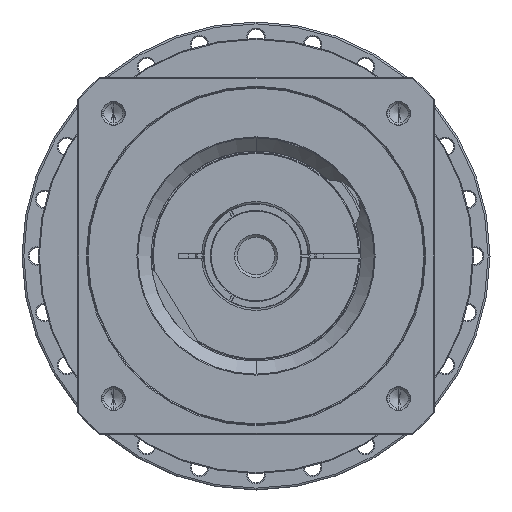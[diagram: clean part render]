
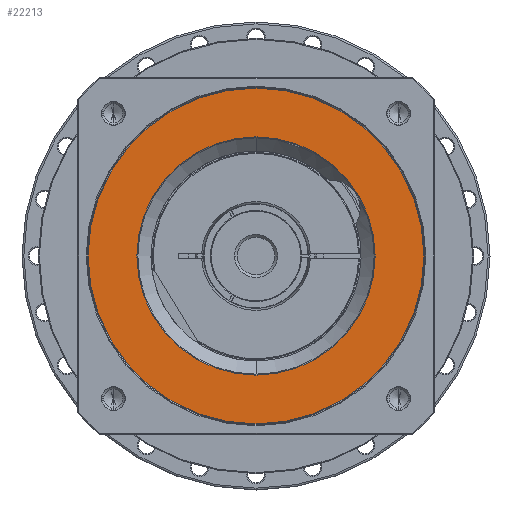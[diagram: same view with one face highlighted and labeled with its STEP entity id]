
A CAD part, left-side view. The second image highlights one B-rep face of the part: STEP entity #22213.
In plain terms, the highlighted planar face has unit normal (-1, 0, 0) as drawn and (0, 0, 1) by its records, which use the part's own axes.
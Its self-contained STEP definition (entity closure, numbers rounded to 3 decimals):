
#21067=CARTESIAN_POINT('',(0.,0.,46.));
#21068=DIRECTION('',(0.,0.,-1.));
#21069=DIRECTION('',(0.,-1.,0.));
#21070=AXIS2_PLACEMENT_3D('',#21067,#21068,#21069);
#21072=CARTESIAN_POINT('',(0.,0.,46.));
#21073=DIRECTION('',(0.,0.,-1.));
#21074=DIRECTION('',(0.,1.,0.));
#21075=AXIS2_PLACEMENT_3D('',#21072,#21073,#21074);
#21077=CARTESIAN_POINT('',(0.,0.,
46.));
#21078=DIRECTION('',(0.,0.,-1.));
#21079=DIRECTION('',(1.,0.,0.));
#21080=AXIS2_PLACEMENT_3D('',#21077,#21078,#21079);
#21082=CARTESIAN_POINT('',(0.,0.,
46.));
#21083=DIRECTION('',(0.,0.,-1.));
#21084=DIRECTION('',(-1.,0.,0.));
#21085=AXIS2_PLACEMENT_3D('',#21082,#21083,#21084);
#21949=CARTESIAN_POINT('',(0.,-89.5,46.));
#21950=CARTESIAN_POINT('',(0.,89.5,46.));
#21951=VERTEX_POINT('',#21949);
#21952=VERTEX_POINT('',#21950);
#21985=CARTESIAN_POINT('',(63.5,0.,46.));
#21986=CARTESIAN_POINT('',(-63.5,0.,
46.));
#21987=VERTEX_POINT('',#21985);
#21988=VERTEX_POINT('',#21986);
#22197=CARTESIAN_POINT('',(0.,0.,46.));
#22198=DIRECTION('',(0.,0.,-1.));
#22199=DIRECTION('',(0.,-1.,0.));
#22200=AXIS2_PLACEMENT_3D('',#22197,#22198,#22199);
#22201=PLANE('',#22200);
#22203=ORIENTED_EDGE('',*,*,#22202,.T.);
#22205=ORIENTED_EDGE('',*,*,#22204,.T.);
#22206=EDGE_LOOP('',(#22203,#22205));
#22207=FACE_OUTER_BOUND('',#22206,.F.);
#22208=ORIENTED_EDGE('',*,*,#22187,.F.);
#22210=ORIENTED_EDGE('',*,*,#22209,.F.);
#22211=EDGE_LOOP('',(#22208,#22210));
#22212=FACE_BOUND('',#22211,.F.);
#22213=ADVANCED_FACE('',(#22207,#22212),#22201,.F.);
#21071=CIRCLE('',#21070,89.5);
#21076=CIRCLE('',#21075,89.5);
#21081=CIRCLE('',#21080,63.5);
#21086=CIRCLE('',#21085,63.5);
#22187=EDGE_CURVE('',#21987,#21988,#21081,.T.);
#22202=EDGE_CURVE('',#21951,#21952,#21071,.T.);
#22204=EDGE_CURVE('',#21952,#21951,#21076,.T.);
#22209=EDGE_CURVE('',#21988,#21987,#21086,.T.);
